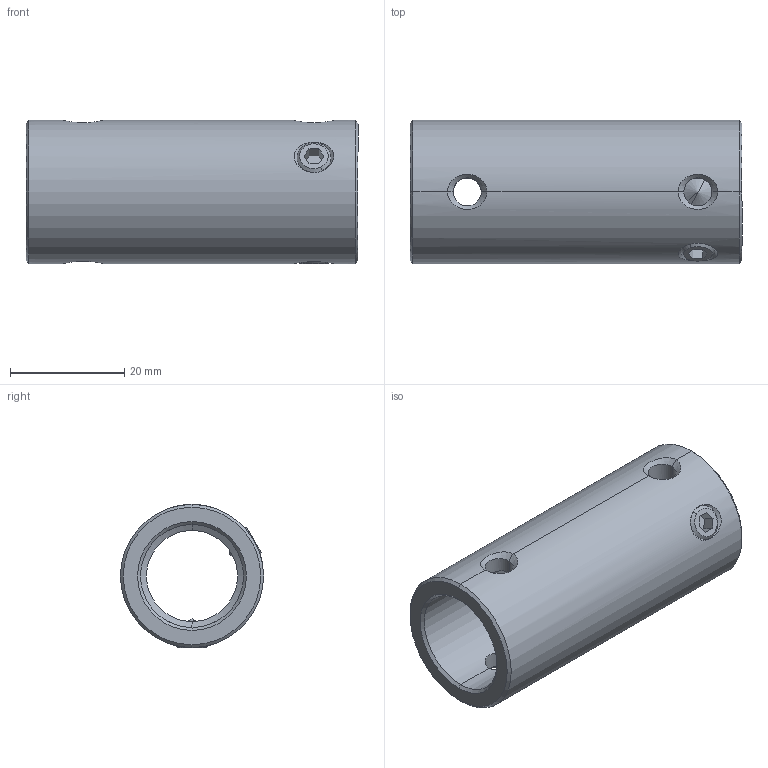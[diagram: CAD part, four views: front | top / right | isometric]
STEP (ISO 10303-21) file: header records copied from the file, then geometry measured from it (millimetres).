
FILE_DESCRIPTION(('CATIA V5 STEP Exchange','CAx-IF Rec.Pracs.--- Model Styling and Organization---1.5--- 2016-08-15','CAx-IF Rec.Pracs.---Supplemental Geometry---1.0---2011-11-01','CAx-IF Rec.Pracs.--- Composite Materials ---1.1---2010-07-15'),'2;1');
FILE_NAME('\\arj-synology-1\ARJ社内Project\市販用 C-EPS 小型\ユーザー向け資料\ARJ編集用\ZU40_STRAIGHT_JOINT.stp','2026-03-06T09:12:37+00:00',('none'),('none'),'CATIA Version 5-6 Release 2023 SP5 HF3','CATIA V5 STEP AP214 v3','none');
FILE_SCHEMA(('AUTOMOTIVE_DESIGN { 1 0 10303 214 1 1 1 1 }'));
Length unit declared in the file: millimetre
Products named in the file (1): ZU40_STRAIGHT_JOINT
Bounding box: 58 x 25 x 25 mm (x, y, z)
Volume: 14937.3 mm3; surface area: 8502.2 mm2
Topology: 3 solids, 3 shells, 66 faces, 158 edges, 88 vertices
Faces by surface type: cone 28, cylinder 20, plane 18
Entity records: 2031 total; most frequent: CARTESIAN_POINT 581, ORIENTED_EDGE 308, DIRECTION 226, EDGE_CURVE 154, VECTOR 92, LINE 92, AXIS2_PLACEMENT_3D 89, VERTEX_POINT 88
